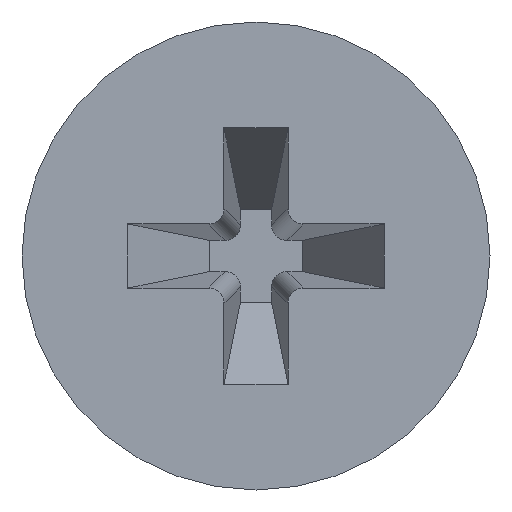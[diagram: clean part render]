
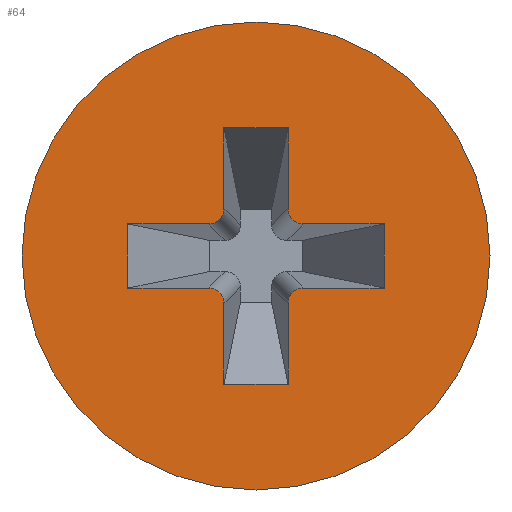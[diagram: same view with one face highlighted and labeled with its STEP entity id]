
A CAD part, left-side view. The second image highlights one B-rep face of the part: STEP entity #64.
In plain terms, the highlighted planar face has unit normal (-1, 0, 0).
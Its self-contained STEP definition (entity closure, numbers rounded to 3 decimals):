
#21 = ORIENTED_EDGE ( 'NONE', *, *, #429, .F. ) ;
#26 = LINE ( 'NONE', #30, #440 ) ;
#27 = EDGE_LOOP ( 'NONE', ( #735 ) ) ;
#30 = CARTESIAN_POINT ( 'NONE',  ( 0., 0.575, -2.3 ) ) ;
#31 = EDGE_LOOP ( 'NONE', ( #581, #489, #520, #504, #483, #726, #637, #709, #21, #576, #642, #244, #103, #407, #667, #119 ) ) ;
#34 = EDGE_CURVE ( 'NONE', #227, #302, #260, .T. ) ;
#37 = CARTESIAN_POINT ( 'NONE',  ( 0., 0.85, 0.575 ) ) ;
#49 = CARTESIAN_POINT ( 'NONE',  ( 0., 0.85, 0.85 ) ) ;
#55 = CARTESIAN_POINT ( 'NONE',  ( 0., 0.575, 0.85 ) ) ;
#64 = ADVANCED_FACE ( 'NONE', ( #431, #499 ), #664, .T. ) ;
#69 = CARTESIAN_POINT ( 'NONE',  ( 0., -0.85, 0.85 ) ) ;
#80 = CARTESIAN_POINT ( 'NONE',  ( 0., 0.575, 2.3 ) ) ;
#85 = CARTESIAN_POINT ( 'NONE',  ( 0., 0.575, 0.575 ) ) ;
#101 = CARTESIAN_POINT ( 'NONE',  ( 0., -2.3, -0.575 ) ) ;
#102 = VECTOR ( 'NONE', #739, 1000. ) ;
#103 = ORIENTED_EDGE ( 'NONE', *, *, #417, .F. ) ;
#109 = LINE ( 'NONE', #232, #413 ) ;
#114 = VERTEX_POINT ( 'NONE', #749 ) ;
#119 = ORIENTED_EDGE ( 'NONE', *, *, #199, .F. ) ;
#127 = CARTESIAN_POINT ( 'NONE',  ( 0., -2.3, 0.575 ) ) ;
#143 = CARTESIAN_POINT ( 'NONE',  ( 0., 0.85, -0.85 ) ) ;
#147 = DIRECTION ( 'NONE',  ( 1., 0., 0. ) ) ;
#149 = VECTOR ( 'NONE', #631, 1000. ) ;
#152 = DIRECTION ( 'NONE',  ( 0., -1., 0. ) ) ;
#155 = CARTESIAN_POINT ( 'NONE',  ( 0., 2.3, -0.575 ) ) ;
#156 = CARTESIAN_POINT ( 'NONE',  ( 0., 0.575, -2.3 ) ) ;
#175 = DIRECTION ( 'NONE',  ( 0., 0., -1. ) ) ;
#176 = EDGE_CURVE ( 'NONE', #754, #648, #507, .T. ) ;
#181 = VERTEX_POINT ( 'NONE', #156 ) ;
#197 = CIRCLE ( 'NONE', #426, 0.275 ) ;
#199 = EDGE_CURVE ( 'NONE', #378, #257, #740, .T. ) ;
#202 = DIRECTION ( 'NONE',  ( -1., 0., 0. ) ) ;
#204 = CARTESIAN_POINT ( 'NONE',  ( 0., 0.85, -0.575 ) ) ;
#210 = CIRCLE ( 'NONE', #400, 4.2 ) ;
#213 = DIRECTION ( 'NONE',  ( 0., 1., 0. ) ) ;
#215 = DIRECTION ( 'NONE',  ( 0., 0., -1. ) ) ;
#222 = CIRCLE ( 'NONE', #250, 0.275 ) ;
#227 = VERTEX_POINT ( 'NONE', #584 ) ;
#229 = EDGE_CURVE ( 'NONE', #745, #754, #288, .T. ) ;
#232 = CARTESIAN_POINT ( 'NONE',  ( 0., -0.575, 0.575 ) ) ;
#237 = VECTOR ( 'NONE', #213, 1000. ) ;
#242 = CARTESIAN_POINT ( 'NONE',  ( 0., -0.85, 0.575 ) ) ;
#244 = ORIENTED_EDGE ( 'NONE', *, *, #396, .F. ) ;
#250 = AXIS2_PLACEMENT_3D ( 'NONE', #69, #305, #552 ) ;
#257 = VERTEX_POINT ( 'NONE', #312 ) ;
#260 = LINE ( 'NONE', #80, #742 ) ;
#261 = CARTESIAN_POINT ( 'NONE',  ( 0., 0.575, -0.575 ) ) ;
#269 = DIRECTION ( 'NONE',  ( 0., 0., 1. ) ) ;
#272 = CARTESIAN_POINT ( 'NONE',  ( 0., -0.85, -0.85 ) ) ;
#281 = LINE ( 'NONE', #404, #646 ) ;
#288 = LINE ( 'NONE', #101, #324 ) ;
#293 = CARTESIAN_POINT ( 'NONE',  ( 0., -0.575, -0.575 ) ) ;
#302 = VERTEX_POINT ( 'NONE', #360 ) ;
#304 = CARTESIAN_POINT ( 'NONE',  ( 0., -0.85, -0.575 ) ) ;
#305 = DIRECTION ( 'NONE',  ( 1., 0., 0. ) ) ;
#312 = CARTESIAN_POINT ( 'NONE',  ( 0., 2.3, 0.575 ) ) ;
#313 = CARTESIAN_POINT ( 'NONE',  ( 0., 0., 0. ) ) ;
#317 = EDGE_CURVE ( 'NONE', #648, #374, #222, .T. ) ;
#321 = DIRECTION ( 'NONE',  ( 0., 0., -1. ) ) ;
#324 = VECTOR ( 'NONE', #269, 1000. ) ;
#337 = CIRCLE ( 'NONE', #602, 0.275 ) ;
#345 = DIRECTION ( 'NONE',  ( 0., 0., 1. ) ) ;
#360 = CARTESIAN_POINT ( 'NONE',  ( 0., 0.575, 2.3 ) ) ;
#361 = VERTEX_POINT ( 'NONE', #366 ) ;
#366 = CARTESIAN_POINT ( 'NONE',  ( 0., 0.575, -0.85 ) ) ;
#368 = CARTESIAN_POINT ( 'NONE',  ( 0., -0.575, -0.575 ) ) ;
#374 = VERTEX_POINT ( 'NONE', #498 ) ;
#378 = VERTEX_POINT ( 'NONE', #37 ) ;
#382 = EDGE_CURVE ( 'NONE', #595, #393, #679, .T. ) ;
#385 = DIRECTION ( 'NONE',  ( 0., 0., -1. ) ) ;
#386 = EDGE_CURVE ( 'NONE', #181, #436, #26, .T. ) ;
#393 = VERTEX_POINT ( 'NONE', #204 ) ;
#396 = EDGE_CURVE ( 'NONE', #361, #181, #447, .T. ) ;
#400 = AXIS2_PLACEMENT_3D ( 'NONE', #513, #747, #215 ) ;
#404 = CARTESIAN_POINT ( 'NONE',  ( 0., 2.3, -0.575 ) ) ;
#407 = ORIENTED_EDGE ( 'NONE', *, *, #382, .F. ) ;
#411 = DIRECTION ( 'NONE',  ( 1., 0., 0. ) ) ;
#413 = VECTOR ( 'NONE', #694, 1000. ) ;
#416 = DIRECTION ( 'NONE',  ( 0., 0., 1. ) ) ;
#417 = EDGE_CURVE ( 'NONE', #393, #361, #500, .T. ) ;
#426 = AXIS2_PLACEMENT_3D ( 'NONE', #272, #445, #510 ) ;
#429 = EDGE_CURVE ( 'NONE', #456, #712, #197, .T. ) ;
#431 = FACE_BOUND ( 'NONE', #31, .T. ) ;
#436 = VERTEX_POINT ( 'NONE', #564 ) ;
#440 = VECTOR ( 'NONE', #152, 1000. ) ;
#445 = DIRECTION ( 'NONE',  ( 1., 0., 0. ) ) ;
#447 = LINE ( 'NONE', #261, #102 ) ;
#455 = DIRECTION ( 'NONE',  ( 0., 1., 0. ) ) ;
#456 = VERTEX_POINT ( 'NONE', #671 ) ;
#468 = EDGE_CURVE ( 'NONE', #302, #572, #673, .T. ) ;
#477 = VECTOR ( 'NONE', #455, 1000. ) ;
#483 = ORIENTED_EDGE ( 'NONE', *, *, #317, .F. ) ;
#489 = ORIENTED_EDGE ( 'NONE', *, *, #468, .F. ) ;
#493 = DIRECTION ( 'NONE',  ( 0., 1., 0. ) ) ;
#498 = CARTESIAN_POINT ( 'NONE',  ( 0., -0.575, 0.85 ) ) ;
#499 = FACE_OUTER_BOUND ( 'NONE', #27, .T. ) ;
#500 = CIRCLE ( 'NONE', #755, 0.275 ) ;
#504 = ORIENTED_EDGE ( 'NONE', *, *, #509, .F. ) ;
#507 = LINE ( 'NONE', #514, #237 ) ;
#509 = EDGE_CURVE ( 'NONE', #374, #227, #109, .T. ) ;
#510 = DIRECTION ( 'NONE',  ( 0., 0., -1. ) ) ;
#513 = CARTESIAN_POINT ( 'NONE',  ( 0., 0., 0. ) ) ;
#514 = CARTESIAN_POINT ( 'NONE',  ( 0., -0.575, 0.575 ) ) ;
#520 = ORIENTED_EDGE ( 'NONE', *, *, #34, .F. ) ;
#536 = EDGE_CURVE ( 'NONE', #436, #456, #703, .T. ) ;
#547 = DIRECTION ( 'NONE',  ( 0., -1., 0. ) ) ;
#552 = DIRECTION ( 'NONE',  ( 0., 0., 1. ) ) ;
#559 = EDGE_CURVE ( 'NONE', #572, #378, #337, .T. ) ;
#564 = CARTESIAN_POINT ( 'NONE',  ( 0., -0.575, -2.3 ) ) ;
#572 = VERTEX_POINT ( 'NONE', #55 ) ;
#576 = ORIENTED_EDGE ( 'NONE', *, *, #536, .F. ) ;
#581 = ORIENTED_EDGE ( 'NONE', *, *, #559, .F. ) ;
#583 = EDGE_CURVE ( 'NONE', #257, #595, #281, .T. ) ;
#584 = CARTESIAN_POINT ( 'NONE',  ( 0., -0.575, 2.3 ) ) ;
#588 = VECTOR ( 'NONE', #345, 1000. ) ;
#595 = VERTEX_POINT ( 'NONE', #699 ) ;
#602 = AXIS2_PLACEMENT_3D ( 'NONE', #49, #411, #416 ) ;
#617 = DIRECTION ( 'NONE',  ( 0., 0., 1. ) ) ;
#618 = EDGE_CURVE ( 'NONE', #114, #114, #210, .T. ) ;
#631 = DIRECTION ( 'NONE',  ( 0., -1., 0. ) ) ;
#637 = ORIENTED_EDGE ( 'NONE', *, *, #229, .F. ) ;
#642 = ORIENTED_EDGE ( 'NONE', *, *, #386, .F. ) ;
#646 = VECTOR ( 'NONE', #175, 1000. ) ;
#648 = VERTEX_POINT ( 'NONE', #242 ) ;
#664 = PLANE ( 'NONE',  #731 ) ;
#667 = ORIENTED_EDGE ( 'NONE', *, *, #583, .F. ) ;
#671 = CARTESIAN_POINT ( 'NONE',  ( 0., -0.575, -0.85 ) ) ;
#673 = LINE ( 'NONE', #85, #719 ) ;
#679 = LINE ( 'NONE', #155, #149 ) ;
#694 = DIRECTION ( 'NONE',  ( 0., 0., 1. ) ) ;
#699 = CARTESIAN_POINT ( 'NONE',  ( 0., 2.3, -0.575 ) ) ;
#703 = LINE ( 'NONE', #293, #588 ) ;
#709 = ORIENTED_EDGE ( 'NONE', *, *, #728, .F. ) ;
#710 = LINE ( 'NONE', #368, #757 ) ;
#712 = VERTEX_POINT ( 'NONE', #304 ) ;
#713 = CARTESIAN_POINT ( 'NONE',  ( 0., -2.3, -0.575 ) ) ;
#719 = VECTOR ( 'NONE', #321, 1000. ) ;
#726 = ORIENTED_EDGE ( 'NONE', *, *, #176, .F. ) ;
#728 = EDGE_CURVE ( 'NONE', #712, #745, #710, .T. ) ;
#731 = AXIS2_PLACEMENT_3D ( 'NONE', #313, #202, #617 ) ;
#735 = ORIENTED_EDGE ( 'NONE', *, *, #618, .F. ) ;
#739 = DIRECTION ( 'NONE',  ( 0., 0., -1. ) ) ;
#740 = LINE ( 'NONE', #748, #477 ) ;
#742 = VECTOR ( 'NONE', #493, 1000. ) ;
#745 = VERTEX_POINT ( 'NONE', #713 ) ;
#747 = DIRECTION ( 'NONE',  ( 1., 0., 0. ) ) ;
#748 = CARTESIAN_POINT ( 'NONE',  ( 0., 2.3, 0.575 ) ) ;
#749 = CARTESIAN_POINT ( 'NONE',  ( 0., 0., -4.2 ) ) ;
#754 = VERTEX_POINT ( 'NONE', #127 ) ;
#755 = AXIS2_PLACEMENT_3D ( 'NONE', #143, #147, #385 ) ;
#757 = VECTOR ( 'NONE', #547, 1000. ) ;
